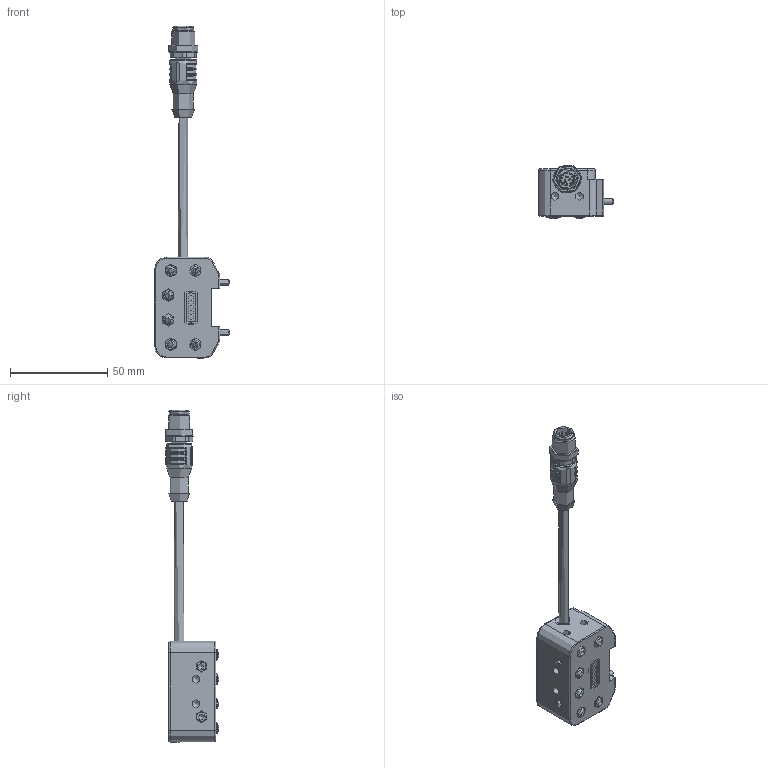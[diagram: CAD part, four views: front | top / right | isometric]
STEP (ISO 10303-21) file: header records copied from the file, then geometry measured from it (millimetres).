
FILE_DESCRIPTION(/* description */ (''),/* implementation_level */ '2;1');
FILE_NAME(/* name */ 'T:\CAD\Standard\SHW\SEK-P\SEK100\SEK100-6PM5-1FE12\G-SEK100-O-6PM5-1FE12-300-M12.stp',/* time_stamp */ '2022-02-15T14:34:44+01:00',/* author */ ('vbednarz'),/* organization */ (''),/* preprocessor_version */ 'ST-DEVELOPER v17',/* originating_system */ 'Autodesk Inventor 2018',/* authorisation */ '');
FILE_SCHEMA (('AUTOMOTIVE_DESIGN { 1 0 10303 214 3 1 1 }'));
Length unit declared in the file: millimetre
Products named in the file (1): G-SEK100-O-6PM5-1FE12-300-M8.step
Bounding box: 38.4 x 27.49 x 171.07 mm (x, y, z)
Volume: 40762.8 mm3; surface area: 18933.2 mm2
Topology: 4 solids, 18 shells, 831 faces, 2208 edges, 1472 vertices
Faces by surface type: plane 340, cylinder 209, bspline 154, cone 59, torus 57, sphere 12
Full cylindrical faces by diameter (mm): 0.6 x12, 1 x5, 1.35 x12, 1.8 x2, 1.83 x12, 2.02 x2, 2.05 x4, 2.5 x4, 2.8 x6, 2.9 x4, 3 x2, 3.4 x2, 4.2 x6, 4.5 x4, 5 x4, 5.2 x1, 5.5 x2, 5.8 x1, 6 x2, 6.5 x12, 8.3 x1, 8.7 x1, 10.2 x1, 10.5 x1, 10.8 x1, 12 x1, 14 x1, 15 x1
Entity records: 33488 total; most frequent: CARTESIAN_POINT 12242, ORIENTED_EDGE 4356, DIRECTION 4049, EDGE_CURVE 2178, AXIS2_PLACEMENT_3D 1511, VERTEX_POINT 1472, LINE 1027, VECTOR 1027
